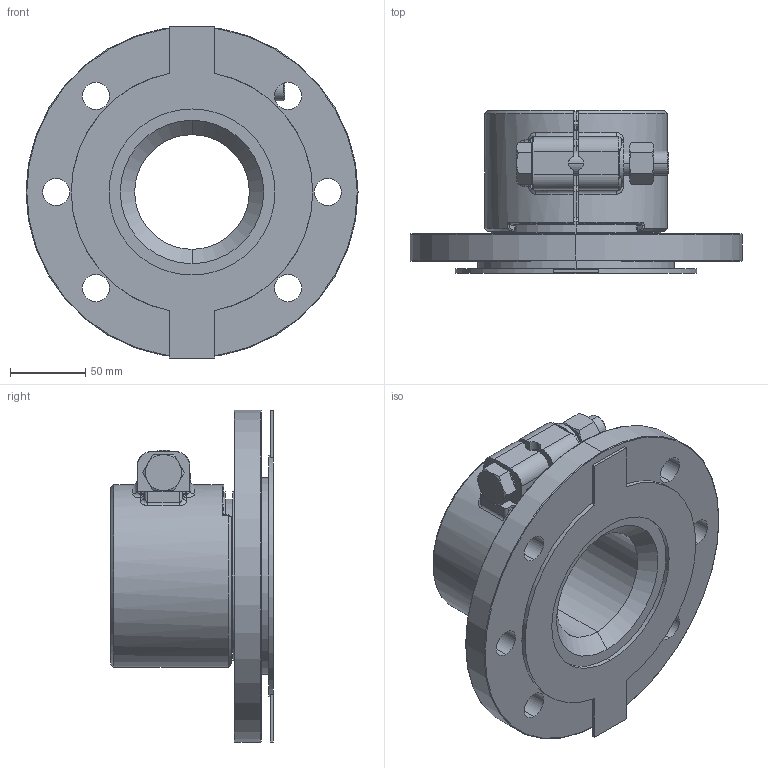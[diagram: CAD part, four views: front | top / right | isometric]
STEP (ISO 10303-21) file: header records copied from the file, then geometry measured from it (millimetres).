
FILE_DESCRIPTION (( 'STEP AP214' ), '1' );
FILE_NAME ('KP_C14-F5-110.step', '2012-05-23T14:31:10', ( 'robinj' ), ( 'Microsoft' ), 'SwSTEP 2.0', 'SolidWorks 2012', '' );
FILE_SCHEMA (( 'AUTOMOTIVE_DESIGN' ));
Length unit declared in the file: millimetre
Products named in the file (1): KP_C14-F5-110
Bounding box: 220 x 107.75 x 220 mm (x, y, z)
Volume: 966985.9 mm3; surface area: 265985.2 mm2
Topology: 8 solids, 8 shells, 467 faces, 1096 edges, 631 vertices
Faces by surface type: cylinder 167, plane 108, torus 63, cone 59, bspline 48, sphere 22
Entity records: 21408 total; most frequent: CARTESIAN_POINT 5685, DIRECTION 2290, ORIENTED_EDGE 2142, EDGE_CURVE 1071, AXIS2_PLACEMENT_3D 954, VERTEX_POINT 631, CIRCLE 534, EDGE_LOOP 510
